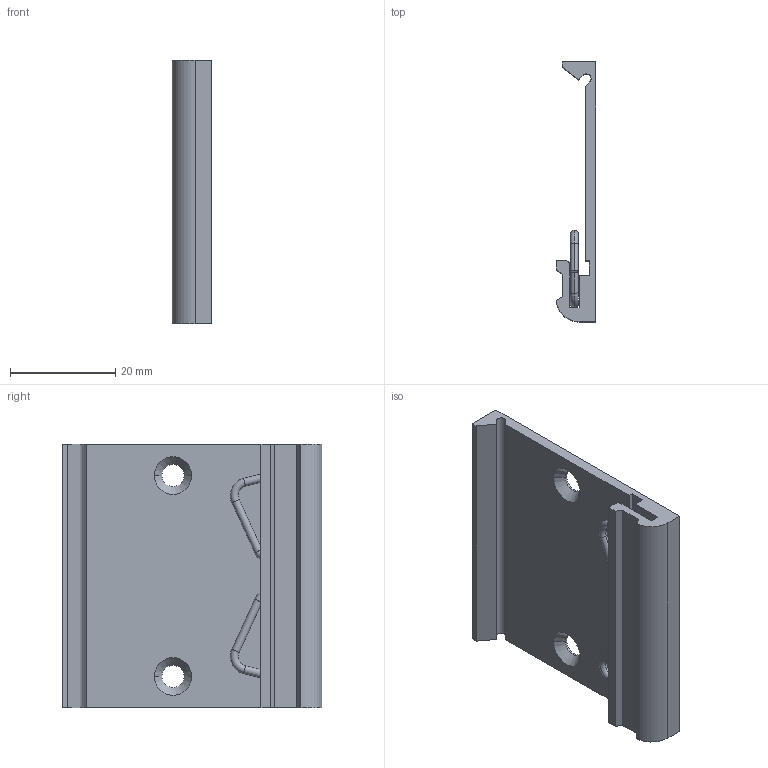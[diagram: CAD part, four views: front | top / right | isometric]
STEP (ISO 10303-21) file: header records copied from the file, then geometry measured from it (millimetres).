
FILE_DESCRIPTION((''),'2;1');
FILE_NAME('CU_DIN_RAIL_NI-9913','2016-04-12T',('dkendric'),(''),'PRO/ENGINEER BY PARAMETRIC TECHNOLOGY CORPORATION, 2015280','PRO/ENGINEER BY PARAMETRIC TECHNOLOGY CORPORATION, 2015280','');
FILE_SCHEMA(('CONFIG_CONTROL_DESIGN'));
Length unit declared in the file: inch
Products named in the file (1): CU_DIN_RAIL_NI-9913
Bounding box: 7.49 x 49.28 x 50 mm (x, y, z)
Volume: 7014.4 mm3; surface area: 7650.1 mm2
Topology: 2 solids, 2 shells, 56 faces, 136 edges, 84 vertices
Faces by surface type: plane 23, cylinder 19, torus 10, cone 4
Entity records: 1682 total; most frequent: DIRECTION 304, CARTESIAN_POINT 276, ORIENTED_EDGE 272, EDGE_CURVE 136, AXIS2_PLACEMENT_3D 112, VERTEX_POINT 84, VECTOR 80, LINE 80
